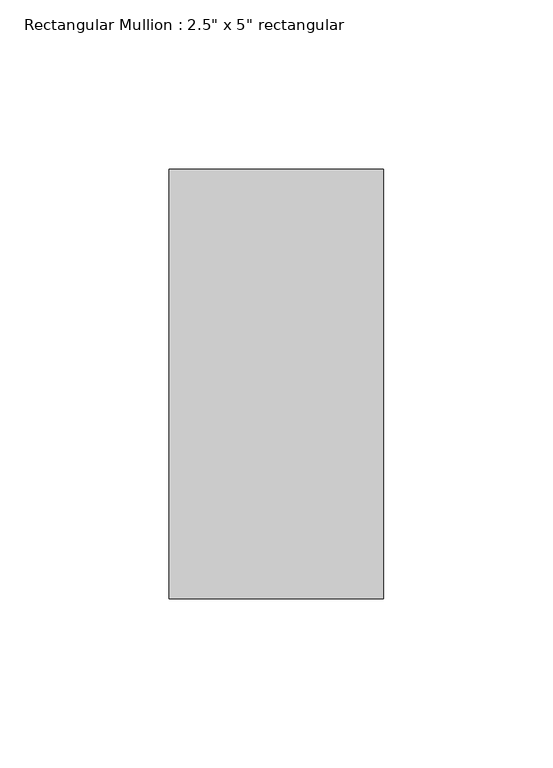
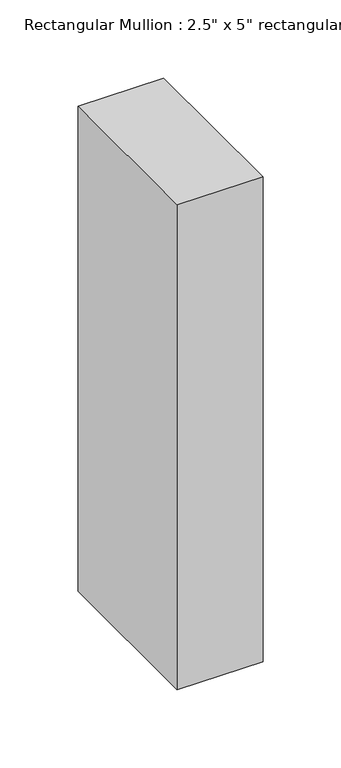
"""IFC4 building model written with IfcOpenShell, lengths in millimetres: member geometry."""

from ifc_helpers import new_model, si_unit, frame, origin, place, context, project, spatial, polyline, outline, extrude, source, transform, mapped, element, save


def member_8f0333f2(model_context):
    return source(origin(), model_context, "Body", "SweptSolid", [
        extrude(outline(polyline([(0.0, 63.5), (0.0, -63.5), (-63.5, -63.5), (-63.5, 63.5), (0.0, 63.5)])), frame((0.0, 0.0, -379.1857143), z_axis=(0.0, 0.0, 1.0), x_axis=(1.0, 0.0, 0.0)), (0.0, 0.0, 1.0), 379.1857143),
    ])


if __name__ == "__main__":
    model = new_model("IFC4")
    model_context = context("Model", 3, world=origin())
    ifc_project = project(units=[si_unit("LENGTHUNIT", "METRE", prefix="MILLI")], contexts=[model_context])
    site = spatial("IfcSite", under=ifc_project)
    building = spatial("IfcBuilding", under=site)
    placement = place(None, origin())
    member_shape = member_8f0333f2(model_context)
    element("IfcMember", 1, ObjectType="Rectangular Mullion : 2.5\" x 5\" rectangular", at=placement, inside=building, context=model_context, shape_type="MappedRepresentation", body=[
        mapped(member_shape, transform((0.0, 0.0, 0.0), x_axis=(1.0, 0.0, 0.0), y_axis=(0.0, 1.0, 0.0), z_axis=(0.0, 0.0, 1.0))),
    ])
    save(model, "model.ifc")
